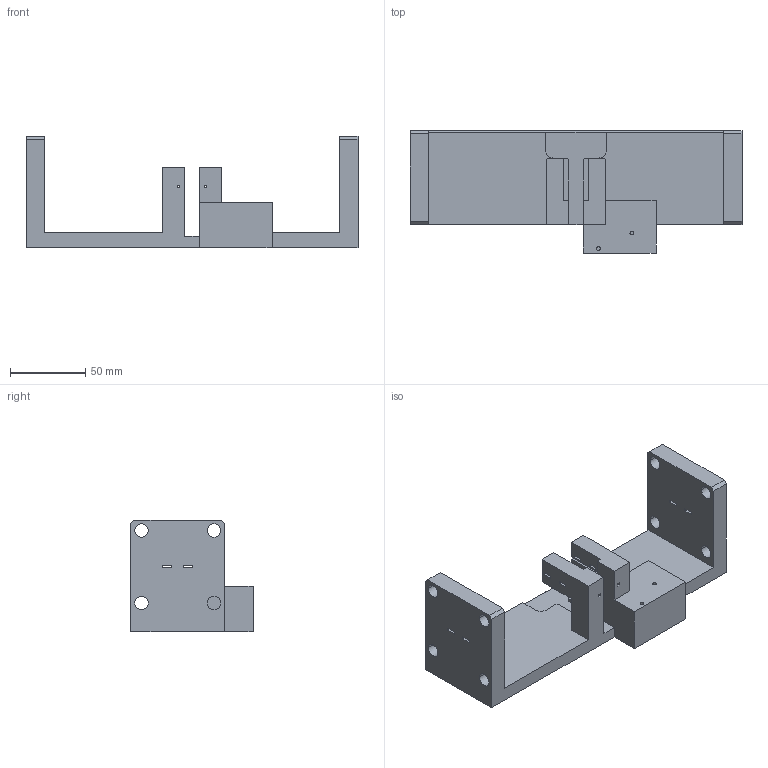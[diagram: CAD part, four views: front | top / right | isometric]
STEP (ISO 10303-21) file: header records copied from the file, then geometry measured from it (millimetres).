
FILE_DESCRIPTION(('CATIA V5 STEP Exchange'),'2;1');
FILE_NAME('G:\够快云库\系统集成开发部\1.部门成员\孙国\工装\切割工装\STP\0331\GZ-QG02_V2 切孔底座.stp','2021-03-31T06:33:06+00:00',('none'),('none'),'CATIA Version 5 Release 20 GA (IN-10)','CATIA V5 STEP AP214','none');
FILE_SCHEMA(('AUTOMOTIVE_DESIGN { 1 0 10303 214 1 1 1 1 }'));
Length unit declared in the file: millimetre
Products named in the file (1): U型架
Bounding box: 220 x 81 x 73.8 mm (x, y, z)
Volume: 288692.4 mm3; surface area: 68297.2 mm2
Topology: 1 solids, 3 shells, 138 faces, 392 edges, 260 vertices
Faces by surface type: plane 111, cylinder 27
Entity records: 4194 total; most frequent: ORIENTED_EDGE 784, CARTESIAN_POINT 775, DIRECTION 536, EDGE_CURVE 392, VECTOR 316, LINE 316, VERTEX_POINT 260, EDGE_LOOP 174
